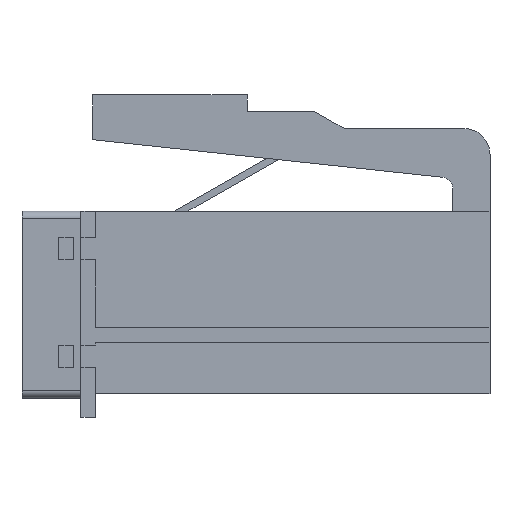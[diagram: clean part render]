
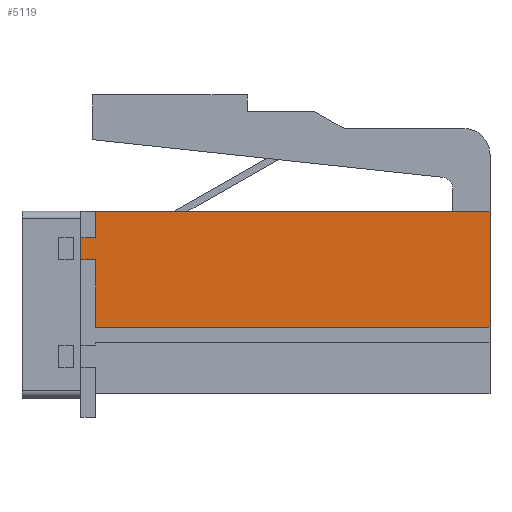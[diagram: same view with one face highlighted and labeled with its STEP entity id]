
A CAD part, left-side view. The second image highlights one B-rep face of the part: STEP entity #5119.
In plain terms, the highlighted planar face has unit normal (-1, 0, 0).
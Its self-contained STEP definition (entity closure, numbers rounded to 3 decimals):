
#272=FACE_OUTER_BOUND('',#549,.T.);
#549=EDGE_LOOP('',(#3416,#3417,#3418,#3419,#3420,#3421,#3422,#3423));
#842=LINE('',#6717,#1465);
#885=LINE('',#6803,#1508);
#886=LINE('',#6805,#1509);
#887=LINE('',#6807,#1510);
#888=LINE('',#6809,#1511);
#889=LINE('',#6811,#1512);
#890=LINE('',#6813,#1513);
#891=LINE('',#6814,#1514);
#1465=VECTOR('',#5643,10.);
#1508=VECTOR('',#5688,10.);
#1509=VECTOR('',#5689,10.);
#1510=VECTOR('',#5690,10.);
#1511=VECTOR('',#5691,10.);
#1512=VECTOR('',#5692,10.);
#1513=VECTOR('',#5693,10.);
#1514=VECTOR('',#5694,10.);
#2088=VERTEX_POINT('',#6714);
#2089=VERTEX_POINT('',#6716);
#2131=VERTEX_POINT('',#6802);
#2132=VERTEX_POINT('',#6804);
#2133=VERTEX_POINT('',#6806);
#2134=VERTEX_POINT('',#6808);
#2135=VERTEX_POINT('',#6810);
#2136=VERTEX_POINT('',#6812);
#2600=EDGE_CURVE('',#2089,#2088,#842,.T.);
#2643=EDGE_CURVE('',#2088,#2131,#885,.T.);
#2644=EDGE_CURVE('',#2132,#2131,#886,.T.);
#2645=EDGE_CURVE('',#2132,#2133,#887,.T.);
#2646=EDGE_CURVE('',#2134,#2133,#888,.T.);
#2647=EDGE_CURVE('',#2134,#2135,#889,.T.);
#2648=EDGE_CURVE('',#2136,#2135,#890,.T.);
#2649=EDGE_CURVE('',#2136,#2089,#891,.T.);
#3416=ORIENTED_EDGE('',*,*,#2600,.T.);
#3417=ORIENTED_EDGE('',*,*,#2643,.T.);
#3418=ORIENTED_EDGE('',*,*,#2644,.F.);
#3419=ORIENTED_EDGE('',*,*,#2645,.T.);
#3420=ORIENTED_EDGE('',*,*,#2646,.F.);
#3421=ORIENTED_EDGE('',*,*,#2647,.T.);
#3422=ORIENTED_EDGE('',*,*,#2648,.F.);
#3423=ORIENTED_EDGE('',*,*,#2649,.T.);
#4919=PLANE('',#5415);
#5119=ADVANCED_FACE('',(#272),#4919,.T.);
#5415=AXIS2_PLACEMENT_3D('',#6801,#5686,#5687);
#5643=DIRECTION('',(0.,0.,1.));
#5686=DIRECTION('center_axis',(-1.,0.,0.));
#5687=DIRECTION('ref_axis',(0.,0.,1.));
#5688=DIRECTION('',(0.,1.,0.));
#5689=DIRECTION('',(0.,0.,1.));
#5690=DIRECTION('',(0.,1.,0.));
#5691=DIRECTION('',(0.,0.,1.));
#5692=DIRECTION('',(0.,-1.,0.));
#5693=DIRECTION('',(0.,0.,1.));
#5694=DIRECTION('',(0.,-1.,0.));
#6714=CARTESIAN_POINT('',(-6.2,0.,6.2));
#6716=CARTESIAN_POINT('',(-6.2,0.,-1.7));
#6717=CARTESIAN_POINT('',(-6.2,0.,-6.2));
#6801=CARTESIAN_POINT('Origin',(-6.2,0.,-6.2));
#6802=CARTESIAN_POINT('',(-6.2,26.8,6.2));
#6803=CARTESIAN_POINT('',(-6.2,0.,6.2));
#6804=CARTESIAN_POINT('',(-6.2,26.8,4.4));
#6805=CARTESIAN_POINT('',(-6.2,26.8,-6.2));
#6806=CARTESIAN_POINT('',(-6.2,27.8,4.4));
#6807=CARTESIAN_POINT('',(-6.2,26.8,4.4));
#6808=CARTESIAN_POINT('',(-6.2,27.8,2.9));
#6809=CARTESIAN_POINT('',(-6.2,27.8,1.425));
#6810=CARTESIAN_POINT('',(-6.2,26.8,2.9));
#6811=CARTESIAN_POINT('',(-6.2,27.8,2.9));
#6812=CARTESIAN_POINT('',(-6.2,26.8,-1.7));
#6813=CARTESIAN_POINT('',(-6.2,26.8,-6.2));
#6814=CARTESIAN_POINT('',(-6.2,13.4,-1.7));
